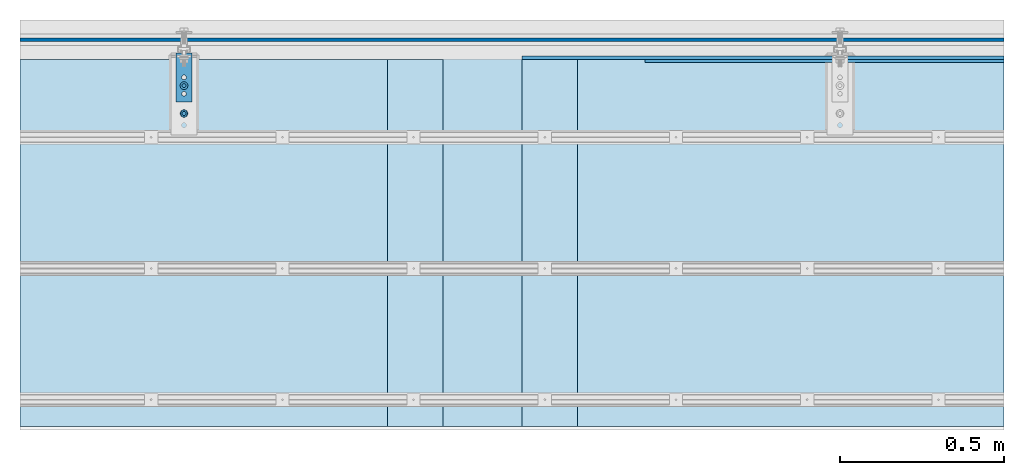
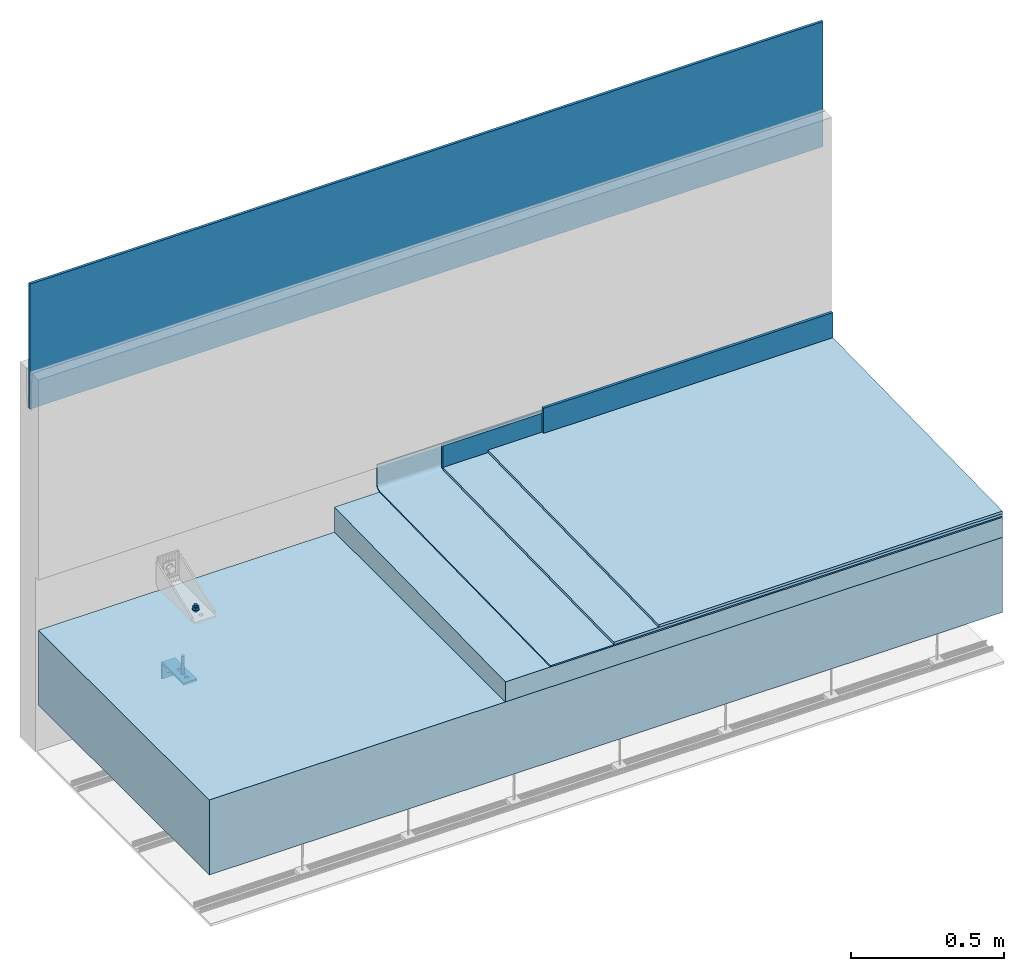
# One storey, part 1 of 8: 5 slabs, 3 assemblies, 3 walls, 4 openings.
"""IFC2X3 building model written with IfcOpenShell, lengths in metres."""

from ifc_helpers import new_model, entity, si_unit, converted_unit, derived_unit, direction, frame, frame_2d, origin, origin_2d_with_axis, place, context, subcontext, project, spatial, polyline, circle_curve, parameter, trimmed, segment, composite_curve, rectangle, circle, hollow_circle, outline, extrude, clip, halfspace, source, transform, mapped, material, layer, layer_set, layer_usage, type_object, type_shapes, element, save


model = new_model("IFC2X3")

# Units and contexts
model_context = context("Model", 3, precision=1e-05, world=origin(), true_north=direction((6.123031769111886e-17, 1.0)))
body_context = subcontext(model_context, "Body", "Model", "MODEL_VIEW")
ifc_project = project(units=[si_unit("LENGTHUNIT", "METRE"), si_unit("AREAUNIT", "SQUARE_METRE"), converted_unit("PLANEANGLEUNIT", "DEGREE", entity("IfcPlaneAngleMeasure", 0.017453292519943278), si_unit("PLANEANGLEUNIT", "RADIAN"), dimensions=[0, 0, 0, 0, 0, 0, 0]), si_unit("VOLUMEUNIT", "CUBIC_METRE"), derived_unit("THERMALTRANSMITTANCEUNIT", [(si_unit("MASSUNIT", "GRAM", prefix="KILO"), 1), (si_unit("THERMODYNAMICTEMPERATUREUNIT", "KELVIN"), -1), (si_unit("TIMEUNIT", "SECOND"), -3)]), derived_unit("USERDEFINED", [(si_unit("MASSUNIT", "GRAM", prefix="KILO"), 1), (si_unit("THERMODYNAMICTEMPERATUREUNIT", "KELVIN"), -1), (si_unit("TIMEUNIT", "SECOND"), -2)]), derived_unit("THERMALRESISTANCEUNIT", [(si_unit("MASSUNIT", "GRAM", prefix="KILO"), -1), (si_unit("TIMEUNIT", "SECOND"), 3), (si_unit("THERMODYNAMICTEMPERATUREUNIT", "KELVIN"), 1)]), si_unit("PRESSUREUNIT", "PASCAL"), derived_unit("MASSDENSITYUNIT", [(si_unit("MASSUNIT", "GRAM", prefix="KILO"), 1), (si_unit("LENGTHUNIT", "METRE"), -3)]), derived_unit("VAPORPERMEABILITYUNIT", [(si_unit("LENGTHUNIT", "METRE"), -1), (si_unit("TIMEUNIT", "SECOND"), 1)]), derived_unit("USERDEFINED", [(si_unit("MASSUNIT", "GRAM", prefix="KILO"), 1), (si_unit("TIMEUNIT", "SECOND"), -3), (si_unit("LENGTHUNIT", "METRE"), 3), (si_unit("ELECTRICCURRENTUNIT", "AMPERE"), -2)])], contexts=[model_context])

# Site, building, storey
site_placement = place(None, origin())
site = spatial("IfcSite", under=ifc_project, at=site_placement, Name="Default", CompositionType="ELEMENT")
building_placement = place(site_placement, origin())
building = spatial("IfcBuilding", under=site, at=building_placement, CompositionType="ELEMENT")
storey_placement = place(building_placement, origin())
storey = spatial("IfcBuildingStorey", under=building, at=storey_placement, Name="L0", CompositionType="ELEMENT", Elevation=0.0)

# Slabs
ifc_material_1 = material(Name="DPG_Losa Principal Obra")
ifc_layer_1 = layer(ifc_material_1, 0.30000000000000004)
ifc_layer_set_1 = layer_set([ifc_layer_1], Name="Suelo:DPG_Losa Principal Obra")
ifc_layer_usage_1 = layer_usage(ifc_layer_set_1, "AXIS3", "POSITIVE", 0.0)
slab_type_1 = type_object("IfcSlabType", Name="Suelo:DPG_Losa Principal Obra", PredefinedType="FLOOR", material=ifc_layer_set_1)
slab_1_placement = place(storey_placement, origin())
element("IfcSlab", 1, at=slab_1_placement, inside=storey, type_object=slab_type_1, material=ifc_layer_usage_1, Name="Suelo:DPG_Losa Principal Obra", ObjectType="Suelo:DPG_Losa Principal Obra", PredefinedType="FLOOR", context=body_context, shape_type="SweptSolid", body=[
    extrude(rectangle(XDim=1.1200000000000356, YDim=3.0000000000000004, at=origin_2d_with_axis()), frame((6.3877202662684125, 15.354530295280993, 0.0), z_axis=(0.0, 0.0, -1.0), x_axis=(0.0, 1.0, 0.0)), (0.0, 0.0, 1.0), 0.30000000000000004),
])
ifc_material_2 = material(Name="Hormigón, ligero")
ifc_layer_2 = layer(ifc_material_2, 0.1)
ifc_layer_set_2 = layer_set([ifc_layer_2], Name="Suelo:DPG_Recrecido")
ifc_layer_usage_2 = layer_usage(ifc_layer_set_2, "AXIS3", "POSITIVE", 0.0)
slab_type_2 = type_object("IfcSlabType", Name="Suelo:DPG_Recrecido", PredefinedType="FLOOR", material=ifc_layer_set_2)
slab_2_placement = place(storey_placement, origin())
element("IfcSlab", 2, at=slab_2_placement, inside=storey, type_object=slab_type_2, material=ifc_layer_usage_2, Name="Suelo:DPG_Recrecido", ObjectType="Suelo:DPG_Recrecido", PredefinedType="FLOOR", context=body_context, shape_type="SweptSolid", body=[
    extrude(outline(polyline([(-0.045000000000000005, -0.5600000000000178), (0.05500000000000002, -0.5600000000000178), (0.034999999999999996, 0.5600000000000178), (-0.045000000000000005, 0.5600000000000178), (-0.045000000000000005, -0.5600000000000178)])), frame((6.007720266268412, 15.354530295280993, 0.045000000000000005), z_axis=(1.0, 0.0, 0.0), x_axis=(0.0, 0.0, 1.0)), (0.0, 0.0, 1.0), 1.8800000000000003),
])
ifc_material_3 = material(Name="Caucho, negro")
slab_type_3 = type_object("IfcSlabType", Name="Lamina impermeable:Lamina impermeable", PredefinedType="FLOOR", material=ifc_material_3)
slab_3_placement = place(storey_placement, origin())
element("IfcSlab", 3, at=slab_3_placement, inside=storey, type_object=slab_type_3, Name="Lamina impermeable:Lamina impermeable", ObjectType="Lamina impermeable:Lamina impermeable", PredefinedType="FLOOR", context=body_context, shape_type="SweptSolid", body=[
    extrude(outline(composite_curve([segment(polyline([(-0.006249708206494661, -0.29124401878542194), (0.07374949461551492, -0.29124401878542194)]), True, "CONTINUOUS"), segment(polyline([(0.07374949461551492, -0.29124401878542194), (0.07374949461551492, -0.28624401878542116)]), True, "CONTINUOUS"), segment(polyline([(0.07374949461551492, -0.28624401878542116), (-0.006249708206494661, -0.2862440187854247)]), True, "CONTINUOUS"), segment(trimmed(circle_curve(frame_2d((-0.006249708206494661, -0.27124401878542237), x_axis=(0.0, 1.0)), 0.015), [parameter(90.00001019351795)], [parameter(180.00000000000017)], True, "PARAMETER"), False, "CONTINUOUS"), segment(polyline([(-0.021249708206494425, -0.27124402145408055), (-0.041249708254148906, 0.8487559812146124)]), True, "CONTINUOUS"), segment(polyline([(-0.041249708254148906, 0.8487559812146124), (-0.046250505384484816, 0.8487559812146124)]), True, "CONTINUOUS"), segment(polyline([(-0.046250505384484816, 0.8487559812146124), (-0.026249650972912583, -0.271291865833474)]), True, "CONTINUOUS"), segment(trimmed(circle_curve(frame_2d((-0.006249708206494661, -0.27124401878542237), x_axis=(0.0, 1.0)), 0.02), [parameter(90.13707182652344)], [parameter(180.00000000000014)], True, "PARAMETER"), True, "CONTINUOUS")], self_intersect=False)), frame((6.177856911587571, 15.643286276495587, 0.1262505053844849), z_axis=(1.0, 0.0, 0.0), x_axis=(0.0, 0.0, 1.0)), (0.0, 0.0, 1.0), 1.7098633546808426),
])
ifc_material_4 = material(Name="Hormigón - Hormigón moldeado in situ")
ifc_layer_3 = layer(ifc_material_4, 0.01)
ifc_layer_set_3 = layer_set([ifc_layer_3], Name="Suelo:DPG_Pegamento cemento")
ifc_layer_usage_3 = layer_usage(ifc_layer_set_3, "AXIS3", "POSITIVE", 0.0)
slab_type_4 = type_object("IfcSlabType", Name="Suelo:DPG_Pegamento cemento", PredefinedType="FLOOR", material=ifc_layer_set_3)
slab_4_placement = place(storey_placement, origin())
element("IfcSlab", 4, at=slab_4_placement, inside=storey, type_object=slab_type_4, material=ifc_layer_usage_3, Name="Suelo:DPG_Pegamento cemento", ObjectType="Suelo:DPG_Pegamento cemento", PredefinedType="FLOOR", context=body_context, shape_type="SweptSolid", body=[
    clip(clip(extrude(rectangle(XDim=1.1201785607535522, YDim=1.4700000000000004, at=frame_2d((0.0, 5.551115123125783e-16), x_axis=(1.0, 0.0))), frame((7.152720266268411, 15.354530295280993, 0.10500009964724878), z_axis=(0.0, 0.01785447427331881, -0.9998405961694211), x_axis=(0.0, 0.9998405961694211, 0.01785447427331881)), (-0.01785447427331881, 0.0, 0.9998405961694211), 0.010001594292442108), halfspace(frame((7.152720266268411, 15.354530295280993, 0.0950000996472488), z_axis=(0.0, 0.01785447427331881, -0.9998405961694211), x_axis=(0.0, -0.9998405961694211, -0.01785447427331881)), False)), halfspace(frame((7.152720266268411, 15.354530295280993, 0.10500009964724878), z_axis=(0.0, -0.01785447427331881, 0.9998405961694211), x_axis=(0.0, -0.9998405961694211, -0.01785447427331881)), False)),
])
ifc_material_5 = material(Name="Azulejo, porcelana, 6 pulg.")
ifc_layer_4 = layer(ifc_material_5, 0.01)
ifc_layer_set_4 = layer_set([ifc_layer_4], Name="Suelo:DPG_Ceramica")
ifc_layer_usage_4 = layer_usage(ifc_layer_set_4, "AXIS3", "POSITIVE", 0.0)
slab_type_5 = type_object("IfcSlabType", Name="Suelo:DPG_Ceramica", PredefinedType="FLOOR", material=ifc_layer_set_4)
slab_5_placement = place(storey_placement, origin())
element("IfcSlab", 5, at=slab_5_placement, inside=storey, type_object=slab_type_5, material=ifc_layer_usage_4, Name="Suelo:DPG_Ceramica", ObjectType="Suelo:DPG_Ceramica", PredefinedType="FLOOR", context=body_context, shape_type="SweptSolid", body=[
    clip(clip(extrude(rectangle(XDim=1.1201785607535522, YDim=1.3, at=frame_2d((0.0, 5.551115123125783e-16), x_axis=(1.0, 0.0))), frame((7.237720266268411, 15.354530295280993, 0.11500009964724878), z_axis=(0.0, 0.017854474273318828, -0.9998405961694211), x_axis=(0.0, 0.9998405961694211, 0.017854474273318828)), (-0.017854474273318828, 0.0, 0.9998405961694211), 0.010001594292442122), halfspace(frame((7.237720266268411, 15.354530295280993, 0.10500009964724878), z_axis=(0.0, 0.017854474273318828, -0.9998405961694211), x_axis=(0.0, -0.9998405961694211, -0.017854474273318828)), False)), halfspace(frame((7.237720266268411, 15.354530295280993, 0.11500009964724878), z_axis=(0.0, -0.017854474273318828, 0.9998405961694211), x_axis=(0.0, -0.9998405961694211, -0.017854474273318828)), False)),
])

# Walls
ifc_layer_5 = layer(ifc_material_4, 0.01)
ifc_layer_set_5 = layer_set([ifc_layer_5], Name="Muro básico:DPG_Pegamento cementoso")
ifc_layer_usage_5 = layer_usage(ifc_layer_set_5, "AXIS2", "NEGATIVE", 0.005000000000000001)
wall_type_1 = type_object("IfcWallType", Name="Muro básico:DPG_Pegamento cementoso", PredefinedType="STANDARD", material=ifc_layer_set_5)
wall_1_placement = place(storey_placement, frame((6.417720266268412, 15.919530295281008, 0.10873267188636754)))
element("IfcWallStandardCase", 6, at=wall_1_placement, inside=storey, type_object=wall_type_1, material=ifc_layer_usage_5, Name="Muro básico:DPG_Pegamento cementoso", ObjectType="Muro básico:DPG_Pegamento cementoso", context=body_context, shape_type="SweptSolid", body=[
    extrude(rectangle(XDim=1.4699999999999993, YDim=0.010000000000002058, at=frame_2d((0.7349999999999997, 0.0), x_axis=(-1.0, 0.0))), origin(), (0.0, 0.0, 1.0), 0.09126732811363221),
])
ifc_material_6 = material(Name="Vidrio")
ifc_layer_6 = layer(ifc_material_6, 0.01)
ifc_layer_set_6 = layer_set([ifc_layer_6], Name="Muro básico:DPG_Vidrio")
ifc_layer_usage_6 = layer_usage(ifc_layer_set_6, "AXIS2", "NEGATIVE", 0.005000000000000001)
wall_type_2 = type_object("IfcWallType", Name="Muro básico:DPG_Vidrio", PredefinedType="STANDARD", material=ifc_layer_set_6)
wall_2_placement = place(storey_placement, frame((4.887720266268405, 15.974530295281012, 0.8499999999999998)))
element("IfcWallStandardCase", 7, at=wall_2_placement, inside=storey, type_object=wall_type_2, material=ifc_layer_usage_6, Name="Muro básico:DPG_Vidrio", ObjectType="Muro básico:DPG_Vidrio", context=body_context, shape_type="SweptSolid", body=[
    extrude(rectangle(XDim=3.0000000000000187, YDim=0.010000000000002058, at=frame_2d((1.5000000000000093, 0.0), x_axis=(-1.0, 0.0))), origin(), (0.0, 0.0, 1.0), 0.5),
])
ifc_layer_7 = layer(ifc_material_5, 0.01)
ifc_layer_set_7 = layer_set([ifc_layer_7], Name="Muro básico:DPG_Rodapie")
ifc_layer_usage_7 = layer_usage(ifc_layer_set_7, "AXIS2", "NEGATIVE", 0.005000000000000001)
wall_type_3 = type_object("IfcWallType", Name="Muro básico:DPG_Rodapie", PredefinedType="STANDARD", material=ifc_layer_set_7)
wall_3_placement = place(storey_placement, frame((6.792720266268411, 15.909530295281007, 0.1256544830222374)))
element("IfcWallStandardCase", 8, at=wall_3_placement, inside=storey, type_object=wall_type_3, material=ifc_layer_usage_7, Name="Muro básico:DPG_Rodapie", ObjectType="Muro básico:DPG_Rodapie", context=body_context, shape_type="SweptSolid", body=[
    extrude(rectangle(XDim=1.0950000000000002, YDim=0.01000000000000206, at=frame_2d((0.5475000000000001, 5.303917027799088e-16), x_axis=(-1.0, 0.0))), origin(), (0.0, 0.0, 1.0), 0.1),
])

# Assemblies
ifc_material_7 = material(Name="REC_Acero, S 275JR (Zincado)")
type_product_1 = type_object("IfcTypeProduct", Name="REC-AEM12-140:AEM12-140", material=ifc_material_7)
shared_shape_1 = source(origin(), body_context, "Body", "SweptSolid", [
    extrude(outline(polyline([(-0.005890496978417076, -0.010202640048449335), (0.005890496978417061, -0.010202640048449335), (0.01178099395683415, 0.0), (0.005890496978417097, 0.010202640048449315), (-0.0058904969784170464, 0.010202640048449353), (-0.011780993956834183, 0.0), (-0.005890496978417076, -0.010202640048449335)]), holes=[composite_curve([segment(trimmed(circle_curve(frame_2d((6.043164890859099e-09, 0.0), x_axis=(1.0, 0.0)), 0.005999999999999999), [parameter(3.053332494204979e-13)], [parameter(180.0)], True, "PARAMETER"), False, "CONTINUOUS"), segment(trimmed(circle_curve(frame_2d((6.043164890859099e-09, 0.0), x_axis=(1.0, 0.0)), 0.005999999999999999), [parameter(179.99999999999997)], [parameter(0.0)], True, "PARAMETER"), False, "CONTINUOUS")], self_intersect=False)]), frame((-6.043164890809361e-09, 0.0, 0.002399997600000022)), (0.0, 0.0, 1.0), 0.009600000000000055),
    extrude(hollow_circle(Radius=0.011999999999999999, WallThickness=0.004999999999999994, at=frame_2d((1.062573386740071e-19, -1.9386534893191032e-17), x_axis=(1.0, 0.0))), origin(), (0.0, 0.0, 1.0), 0.002399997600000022),
    extrude(circle(Radius=0.006, at=frame_2d((1.3218592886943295e-19, -9.69326744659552e-18), x_axis=(1.0, 0.0))), frame((0.0, 0.0, -0.09)), (0.0, 0.0, 1.0), 0.11),
    extrude(circle(Radius=0.006, at=frame_2d((1.3218592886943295e-19, -9.69326744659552e-18), x_axis=(1.0, 0.0))), frame((0.0, 0.0, -0.12)), (0.0, 0.0, 1.0), 0.026999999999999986),
    extrude(circle(Radius=0.005, at=frame_2d((1.3218592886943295e-19, -8.077722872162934e-18), x_axis=(1.0, 0.0))), frame((0.0, 0.0, -0.09300000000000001)), (0.0, 0.0, 1.0), 0.0030000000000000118),
])
type_shapes(type_product_1, [shared_shape_1])
assembly_1_placement = place(storey_placement, frame((5.387720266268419, 15.749530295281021, 0.007999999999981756)))
element("IfcElementAssembly", 9, at=assembly_1_placement, inside=storey, type_object=type_product_1, material=ifc_material_7, Name="REC-AEM12-140:AEM12-140", ObjectType="REC-AEM12-140:AEM12-140", AssemblyPlace="NOTDEFINED", PredefinedType="NOTDEFINED", context=body_context, shape_type="MappedRepresentation", body=[
    mapped(shared_shape_1, transform((0.0, 0.0, 0.0), scale=1.0)),
])
type_product_2 = type_object("IfcTypeProduct", Name="REC-AEM12-100:AEM12-100", material=ifc_material_7)
shared_shape_2 = source(origin(), body_context, "Body", "SweptSolid", [
    extrude(outline(polyline([(-0.005890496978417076, -0.010202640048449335), (0.005890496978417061, -0.010202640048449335), (0.01178099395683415, 0.0), (0.005890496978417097, 0.010202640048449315), (-0.0058904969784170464, 0.010202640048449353), (-0.011780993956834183, 0.0), (-0.005890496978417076, -0.010202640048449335)]), holes=[composite_curve([segment(trimmed(circle_curve(frame_2d((6.043164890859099e-09, 0.0), x_axis=(1.0, 0.0)), 0.005999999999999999), [parameter(3.053332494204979e-13)], [parameter(180.0)], True, "PARAMETER"), False, "CONTINUOUS"), segment(trimmed(circle_curve(frame_2d((6.043164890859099e-09, 0.0), x_axis=(1.0, 0.0)), 0.005999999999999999), [parameter(179.99999999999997)], [parameter(0.0)], True, "PARAMETER"), False, "CONTINUOUS")], self_intersect=False)]), frame((-6.043164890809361e-09, 0.0, 0.002399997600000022)), (0.0, 0.0, 1.0), 0.009600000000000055),
    extrude(hollow_circle(Radius=0.011999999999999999, WallThickness=0.004999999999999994, at=frame_2d((1.062573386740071e-19, -1.9386534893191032e-17), x_axis=(1.0, 0.0))), origin(), (0.0, 0.0, 1.0), 0.002399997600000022),
    extrude(circle(Radius=0.006, at=frame_2d((1.3218592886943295e-19, -9.69326744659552e-18), x_axis=(1.0, 0.0))), frame((0.0, 0.0, -0.05)), (0.0, 0.0, 1.0), 0.07),
    extrude(circle(Radius=0.006, at=frame_2d((1.3218592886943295e-19, -9.69326744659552e-18), x_axis=(1.0, 0.0))), frame((0.0, 0.0, -0.08)), (0.0, 0.0, 1.0), 0.027000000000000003),
    extrude(circle(Radius=0.005, at=frame_2d((1.3218592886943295e-19, -8.077722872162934e-18), x_axis=(1.0, 0.0))), frame((0.0, 0.0, -0.053)), (0.0, 0.0, 1.0), 0.002999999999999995),
])
type_shapes(type_product_2, [shared_shape_2])
assembly_2_placement = place(storey_placement, frame((5.387720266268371, 15.834530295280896, -0.3079999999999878), z_axis=(0.0, 0.0, -1.0), x_axis=(-1.0, 0.0, 0.0)))
element("IfcElementAssembly", 10, at=assembly_2_placement, inside=storey, type_object=type_product_2, material=ifc_material_7, Name="REC-AEM12-100:AEM12-100", ObjectType="REC-AEM12-100:AEM12-100", AssemblyPlace="NOTDEFINED", PredefinedType="NOTDEFINED", context=body_context, shape_type="MappedRepresentation", body=[
    mapped(shared_shape_2, transform((0.0, 0.0, 0.0), scale=1.0)),
])

# Assembly, openings
type_product_3 = type_object("IfcTypeProduct", Name="REC-PAA150708T14:PAA150708T14", material=ifc_material_7)
shared_shape_3 = source(origin(), body_context, "Body", "SweptSolid", [
    extrude(outline(polyline([(-0.0007712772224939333, -0.01619336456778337), (-0.057656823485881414, -0.0048781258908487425), (-0.05921754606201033, -0.012724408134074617), (-0.0023319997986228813, -0.02403964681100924), (0.0005526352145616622, -0.02425790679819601), (0.003405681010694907, -0.023779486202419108), (0.0060613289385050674, -0.02263218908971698), (0.008365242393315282, -0.020882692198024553), (0.010183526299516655, -0.018632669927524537), (0.011565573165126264, -0.015681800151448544), (0.03870097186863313, 0.12073706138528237), (0.030854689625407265, 0.12229778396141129), (0.003932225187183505, -0.013050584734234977), (0.003334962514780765, -0.01449250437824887), (0.002231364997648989, -0.015596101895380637), (0.0007894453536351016, -0.016193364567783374), (-0.0007712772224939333, -0.01619336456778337)])), frame((-0.024999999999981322, 0.014402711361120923, 0.024032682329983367), z_axis=(-1.0, 0.0, 0.0), x_axis=(0.0, -0.9807852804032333, 0.19509032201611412)), (0.0, 0.0, -1.0), 0.04999999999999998),
])
type_shapes(type_product_3, [shared_shape_3])
assembly_3_placement = place(storey_placement, frame((5.3877202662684, 15.934530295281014, -0.29999999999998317), z_axis=(0.0, -1.0, 0.0), x_axis=(-1.0, 0.0, 0.0)))
assembly_3 = element("IfcElementAssembly", 11, at=assembly_3_placement, inside=storey, type_object=type_product_3, material=ifc_material_7, Name="REC-PAA150708T14:PAA150708T14", ObjectType="REC-PAA150708T14:PAA150708T14", AssemblyPlace="NOTDEFINED", PredefinedType="NOTDEFINED", context=body_context, shape_type="MappedRepresentation", body=[
    mapped(shared_shape_3, transform((0.0, 0.0, 0.0), scale=1.0)),
])
opening_1_placement = place(storey_placement, frame((5.3877202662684, 15.934530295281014, -0.29999999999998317)))
element("IfcOpeningElement", 12, at=opening_1_placement, cuts=assembly_3, Name="REC-PAA150708T14:PAA150708T14:1", ObjectType="Opening", context=body_context, shape_type="SweptSolid", body=[
    extrude(circle(Radius=0.007, at=frame_2d((0.0, 2.133174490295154e-17), x_axis=(1.0, 0.0))), frame((0.0, 0.0, -0.04500000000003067), z_axis=(0.0, -1.0, 0.0), x_axis=(0.0, 0.0, 1.0)), (0.0, 0.0, 1.0), 0.008000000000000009),
])
opening_2_placement = place(storey_placement, frame((5.3877202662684, 15.934530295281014, -0.29999999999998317)))
element("IfcOpeningElement", 13, at=opening_2_placement, cuts=assembly_3, Name="REC-PAA150708T14:PAA150708T14:2", ObjectType="Opening", context=body_context, shape_type="SweptSolid", body=[
    extrude(circle(Radius=0.007, at=frame_2d((-1.1948495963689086e-31, 6.726405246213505e-17), x_axis=(1.0, 0.0))), frame((0.0, -0.12499999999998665, -0.008000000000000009), z_axis=(0.0, 0.0, 1.0), x_axis=(0.0, 1.0, 0.0)), (0.0, 0.0, 1.0), 0.008000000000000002),
])
opening_3_placement = place(storey_placement, frame((5.3877202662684, 15.934530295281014, -0.29999999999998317)))
element("IfcOpeningElement", 14, at=opening_3_placement, cuts=assembly_3, Name="REC-PAA150708T14:PAA150708T14:3", ObjectType="Opening", context=body_context, shape_type="SweptSolid", body=[
    extrude(circle(Radius=0.007, at=frame_2d((-1.1948495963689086e-31, 6.726405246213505e-17), x_axis=(1.0, 0.0))), frame((0.0, -0.09999999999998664, -0.00800000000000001), z_axis=(0.0, 0.0, 1.0), x_axis=(0.0, 1.0, 0.0)), (0.0, 0.0, 1.0), 0.008000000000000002),
])
opening_4_placement = place(storey_placement, frame((5.3877202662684, 15.934530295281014, -0.29999999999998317)))
element("IfcOpeningElement", 15, at=opening_4_placement, cuts=assembly_3, Name="REC-PAA150708T14:PAA150708T14:4", ObjectType="Opening", context=body_context, shape_type="SweptSolid", body=[
    extrude(circle(Radius=0.007, at=frame_2d((8.459899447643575e-18, 6.726405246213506e-17), x_axis=(1.0, 0.0))), frame((0.0, -0.07499999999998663, -0.00800000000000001), z_axis=(0.0, 0.0, 1.0), x_axis=(0.0, 1.0, 0.0)), (0.0, 0.0, 1.0), 0.008000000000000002),
])

save(model, "model.ifc")
